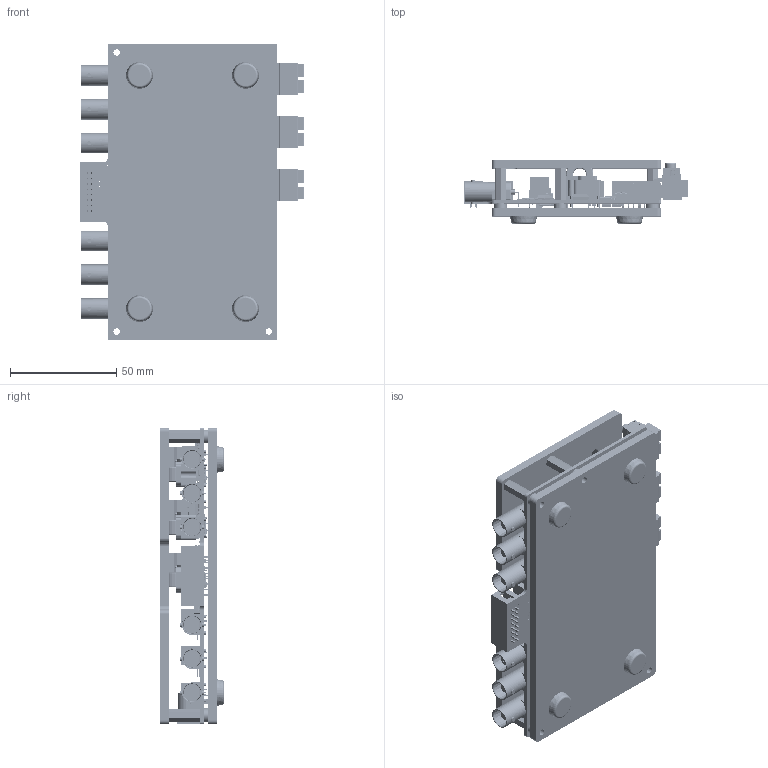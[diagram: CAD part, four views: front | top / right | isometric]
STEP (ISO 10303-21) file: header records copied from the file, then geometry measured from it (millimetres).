
FILE_DESCRIPTION (( 'STEP AP214' ), '1' );
FILE_NAME ('USM-3IV.06.STEP', '2018-04-27T23:06:36', ( '' ), ( '' ), 'SwSTEP 2.0', 'SolidWorks 2015', '' );
FILE_SCHEMA (( 'AUTOMOTIVE_DESIGN' ));
Length unit declared in the file: millimetre
Products named in the file (8): Spacer 905080; USM Top Plate; USM Bottom Plate; USM-3IV.06; USM Spacer; PCB-USM-3IV.07; USM-3IV new; USM Pad
Assembly tree (16 placements, depth 2):
  USM-3IV.06
    USM-3IV new
    USM Spacer  x4
    USM Top Plate
    Spacer 905080  x4
    USM Bottom Plate
    USM Pad  x4
    PCB-USM-3IV.07
Bounding box: 105.66 x 30.13 x 140.01 mm (x, y, z)
Volume: 83804.5 mm3; surface area: 152676.2 mm2
Topology: 14 solids, 2987 shells, 11880 faces, 55339 edges, 46067 vertices
Faces by surface type: plane 8622, cylinder 2942, cone 128, bspline 84, torus 68, sphere 36
Entity records: 810309 total; most frequent: CARTESIAN_POINT 256703, DIRECTION 77726, ORIENTED_EDGE 74791, EDGE_CURVE 55177, VERTEX_POINT 45965, LINE 37862, VECTOR 37862, AXIS2_PLACEMENT_3D 19932
